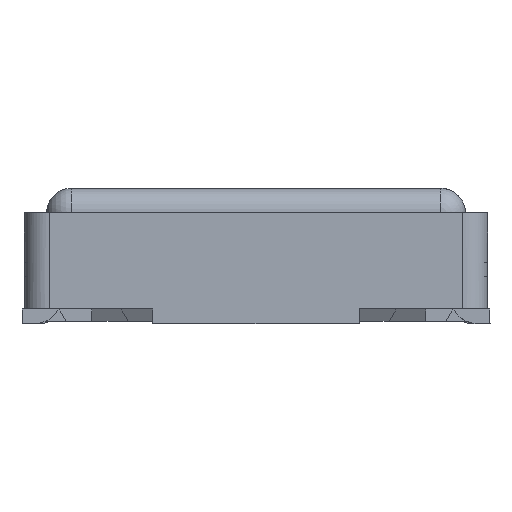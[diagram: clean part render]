
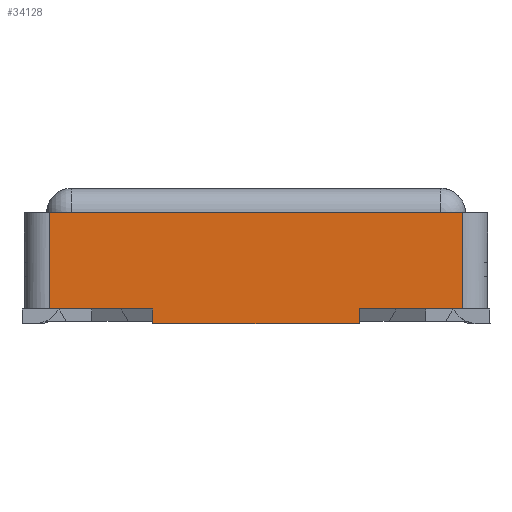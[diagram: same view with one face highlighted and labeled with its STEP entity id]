
A CAD part, left-side view. The second image highlights one B-rep face of the part: STEP entity #34128.
In plain terms, the highlighted planar face has unit normal (-1, 0, 0).
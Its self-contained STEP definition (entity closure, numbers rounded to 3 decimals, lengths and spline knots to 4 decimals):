
#31260=CARTESIAN_POINT('Line Origine',(-12.325,-0.63,0.05)) ;
#31264=CARTESIAN_POINT('Vertex',(-12.325,-0.84,0.05)) ;
#31266=CARTESIAN_POINT('Vertex',(-12.325,-0.42,0.05)) ;
#31287=CARTESIAN_POINT('Vertex',(-12.325,0.42,0.05)) ;
#31290=CARTESIAN_POINT('Line Origine',(-12.325,0.63,0.05)) ;
#31294=CARTESIAN_POINT('Vertex',(-12.325,0.84,0.05)) ;
#34075=CARTESIAN_POINT('Axis2P3D Location',(-12.325,-0.94,0.)) ;
#34080=CARTESIAN_POINT('Line Origine',(-12.325,-0.84,0.245)) ;
#34084=CARTESIAN_POINT('Vertex',(-12.325,-0.84,0.44)) ;
#34087=CARTESIAN_POINT('Line Origine',(-12.325,0.,0.44)) ;
#34091=CARTESIAN_POINT('Vertex',(-12.325,0.84,0.44)) ;
#34094=CARTESIAN_POINT('Line Origine',(-12.325,0.84,0.245)) ;
#34099=CARTESIAN_POINT('Line Origine',(-12.325,0.42,0.02)) ;
#34103=CARTESIAN_POINT('Vertex',(-12.325,0.42,-0.01)) ;
#34106=CARTESIAN_POINT('Line Origine',(-12.325,0.,-0.01)) ;
#34110=CARTESIAN_POINT('Vertex',(-12.325,-0.42,-0.01)) ;
#34113=CARTESIAN_POINT('Line Origine',(-12.325,-0.42,0.02)) ;
#31261=DIRECTION('Vector Direction',(0.,1.,0.)) ;
#31291=DIRECTION('Vector Direction',(0.,1.,0.)) ;
#34076=DIRECTION('Axis2P3D Direction',(1.,0.,0.)) ;
#34077=DIRECTION('Axis2P3D XDirection',(0.,1.,0.)) ;
#34081=DIRECTION('Vector Direction',(0.,0.,1.)) ;
#34088=DIRECTION('Vector Direction',(0.,1.,0.)) ;
#34095=DIRECTION('Vector Direction',(0.,0.,-1.)) ;
#34100=DIRECTION('Vector Direction',(0.,0.,-1.)) ;
#34107=DIRECTION('Vector Direction',(0.,1.,0.)) ;
#34114=DIRECTION('Vector Direction',(0.,0.,-1.)) ;
#34078=AXIS2_PLACEMENT_3D('Plane Axis2P3D',#34075,#34076,#34077) ;
#34119=ORIENTED_EDGE('',*,*,#34086,.T.) ;
#34120=ORIENTED_EDGE('',*,*,#34093,.T.) ;
#34121=ORIENTED_EDGE('',*,*,#34098,.T.) ;
#34122=ORIENTED_EDGE('',*,*,#31296,.F.) ;
#34123=ORIENTED_EDGE('',*,*,#34105,.T.) ;
#34124=ORIENTED_EDGE('',*,*,#34112,.F.) ;
#34125=ORIENTED_EDGE('',*,*,#34117,.F.) ;
#34126=ORIENTED_EDGE('',*,*,#31268,.F.) ;
#31262=VECTOR('Line Direction',#31261,1.) ;
#31292=VECTOR('Line Direction',#31291,1.) ;
#34082=VECTOR('Line Direction',#34081,1.) ;
#34089=VECTOR('Line Direction',#34088,1.) ;
#34096=VECTOR('Line Direction',#34095,1.) ;
#34101=VECTOR('Line Direction',#34100,1.) ;
#34108=VECTOR('Line Direction',#34107,1.) ;
#34115=VECTOR('Line Direction',#34114,1.) ;
#34128=ADVANCED_FACE('MANIFOLD_SOLID_BREP #19178',(#34127),#34079,.F.) ;
#31268=EDGE_CURVE('',#31265,#31267,#31263,.T.) ;
#31296=EDGE_CURVE('',#31288,#31295,#31293,.T.) ;
#34086=EDGE_CURVE('',#31265,#34085,#34083,.T.) ;
#34093=EDGE_CURVE('',#34085,#34092,#34090,.T.) ;
#34098=EDGE_CURVE('',#34092,#31295,#34097,.T.) ;
#34105=EDGE_CURVE('',#31288,#34104,#34102,.T.) ;
#34112=EDGE_CURVE('',#34111,#34104,#34109,.T.) ;
#34117=EDGE_CURVE('',#31267,#34111,#34116,.T.) ;
#34118=EDGE_LOOP('',(#34119,#34120,#34121,#34122,#34123,#34124,#34125,#34126)) ;
#34127=FACE_OUTER_BOUND('',#34118,.T.) ;
#31263=LINE('Line',#31260,#31262) ;
#31293=LINE('Line',#31290,#31292) ;
#34083=LINE('Line',#34080,#34082) ;
#34090=LINE('Line',#34087,#34089) ;
#34097=LINE('Line',#34094,#34096) ;
#34102=LINE('Line',#34099,#34101) ;
#34109=LINE('Line',#34106,#34108) ;
#34116=LINE('Line',#34113,#34115) ;
#34079=PLANE('Plane',#34078) ;
#31265=VERTEX_POINT('',#31264) ;
#31267=VERTEX_POINT('',#31266) ;
#31288=VERTEX_POINT('',#31287) ;
#31295=VERTEX_POINT('',#31294) ;
#34085=VERTEX_POINT('',#34084) ;
#34092=VERTEX_POINT('',#34091) ;
#34104=VERTEX_POINT('',#34103) ;
#34111=VERTEX_POINT('',#34110) ;
